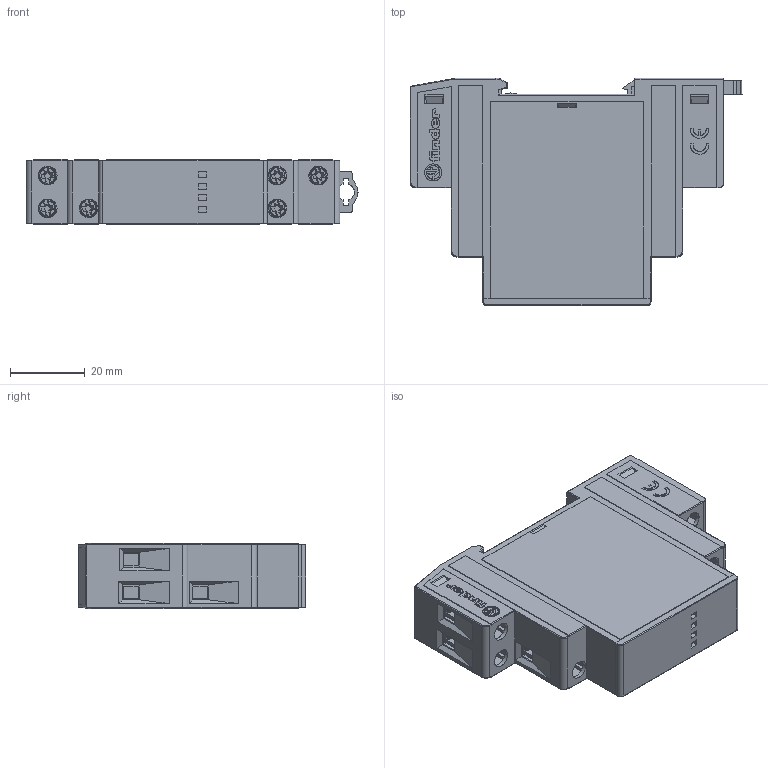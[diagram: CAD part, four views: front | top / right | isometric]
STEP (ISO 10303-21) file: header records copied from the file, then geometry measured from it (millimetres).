
FILE_DESCRIPTION(('STEP AP214'),'2;1');
FILE_NAME('1311.stp','2012-07-17T08:43:21',(''),(''),'2007.1.106','THINKDESIGN','');
FILE_SCHEMA(('AUTOMOTIVE_DESIGN'));
Length unit declared in the file: millimetre
Products named in the file (1): top
Bounding box: 88.85 x 60.8 x 17.5 mm (x, y, z)
Surface area: 20030.5 mm2 (no closed solid volume)
Topology: 0 solids, 0 shells, 1202 faces, 7442 edges, 7431 vertices
Faces by surface type: plane 963, bspline 122, cylinder 117
Full cylindrical faces by diameter (mm): 3 x8, 5 x6
Entity records: 65580 total; most frequent: CARTESIAN_POINT 22753, DIRECTION 9020, COMPOSITE_CURVE_SEGMENT 7442, TRIMMED_CURVE 6614, VECTOR 6418, LINE 6418, AXIS2_PLACEMENT_3D 1301, OUTER_BOUNDARY_CURVE 1202
